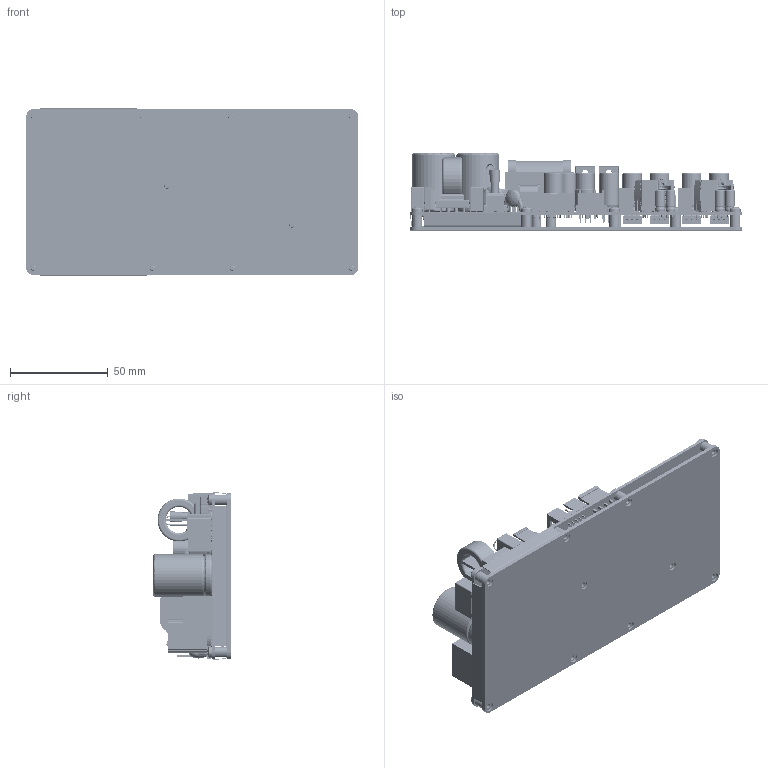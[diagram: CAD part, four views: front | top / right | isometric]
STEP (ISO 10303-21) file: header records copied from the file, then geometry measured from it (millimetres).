
FILE_DESCRIPTION (( 'STEP AP214' ), '1' );
FILE_NAME ('NC122MP 04xx.STEP', '2023-01-06T12:45:07', ( '' ), ( '' ), 'SwSTEP 2.0', 'SolidWorks 2017', '' );
FILE_SCHEMA (( 'AUTOMOTIVE_DESIGN' ));
Length unit declared in the file: millimetre
Products named in the file (6): NC122MP B09; M3x0_5xL Phillips Panhead Screw_6mm; NCx2xMP Insulation Plate; NC122MP 04xx; Hsink SAA17L9W0H2T2; spacer 6mm
Assembly tree (23 placements, depth 2):
  NC122MP 04xx
    Hsink SAA17L9W0H2T2
    NC122MP B09
    spacer 6mm  x10
    NCx2xMP Insulation Plate
    M3x0_5xL Phillips Panhead Screw_6mm  x10
Bounding box: 170.18 x 39.6 x 86.15 mm (x, y, z)
Volume: 32864.9 mm3; surface area: 164947.5 mm2
Topology: 22 solids, 205 shells, 8493 faces, 20946 edges, 12673 vertices
Faces by surface type: plane 3496, cylinder 2924, bspline 1767, cone 190, torus 76, sphere 40
Entity records: 355777 total; most frequent: CARTESIAN_POINT 88290, ORIENTED_EDGE 37997, DIRECTION 35977, EDGE_CURVE 19000, AXIS2_PLACEMENT_3D 12830, VERTEX_POINT 11755, LINE 10317, VECTOR 10317
